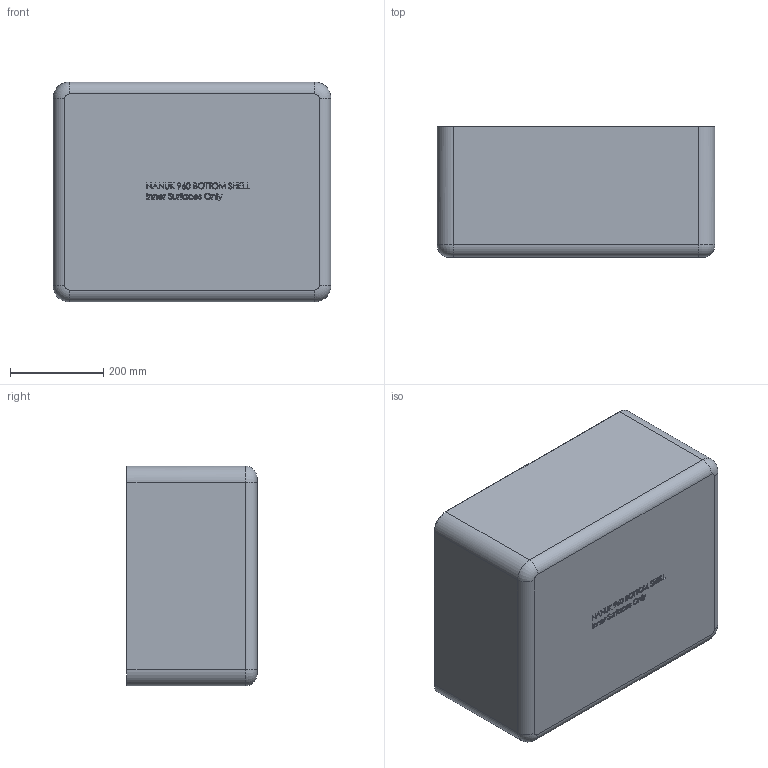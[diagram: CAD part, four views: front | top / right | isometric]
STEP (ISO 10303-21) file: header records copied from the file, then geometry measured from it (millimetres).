
FILE_DESCRIPTION (( 'STEP AP203' ), '1' );
FILE_NAME ('960_Bottom_INNER SURFACES.STEP', '2020-07-03T13:19:51', ( '' ), ( '' ), 'SwSTEP 2.0', 'SolidWorks 2019', '' );
FILE_SCHEMA (( 'CONFIG_CONTROL_DESIGN' ));
Length unit declared in the file: inch
Products named in the file (1): 960_Bottom_INNER SURFACES
Bounding box: 594.98 x 278.32 x 470.49 mm (x, y, z)
Volume: 13104481.7 mm3; surface area: 1883004.2 mm2
Topology: 1 solids, 5 shells, 1038 faces, 2629 edges, 1647 vertices
Faces by surface type: plane 383, bspline 364, cylinder 227, torus 37, sphere 18, cone 9
Full cylindrical faces by diameter (mm): 2.38 x22, 12.7 x1
Entity records: 48464 total; most frequent: CARTESIAN_POINT 26890, ORIENTED_EDGE 5068, DIRECTION 3359, EDGE_CURVE 2534, VERTEX_POINT 1625, LINE 1271, VECTOR 1271, EDGE_LOOP 1157
